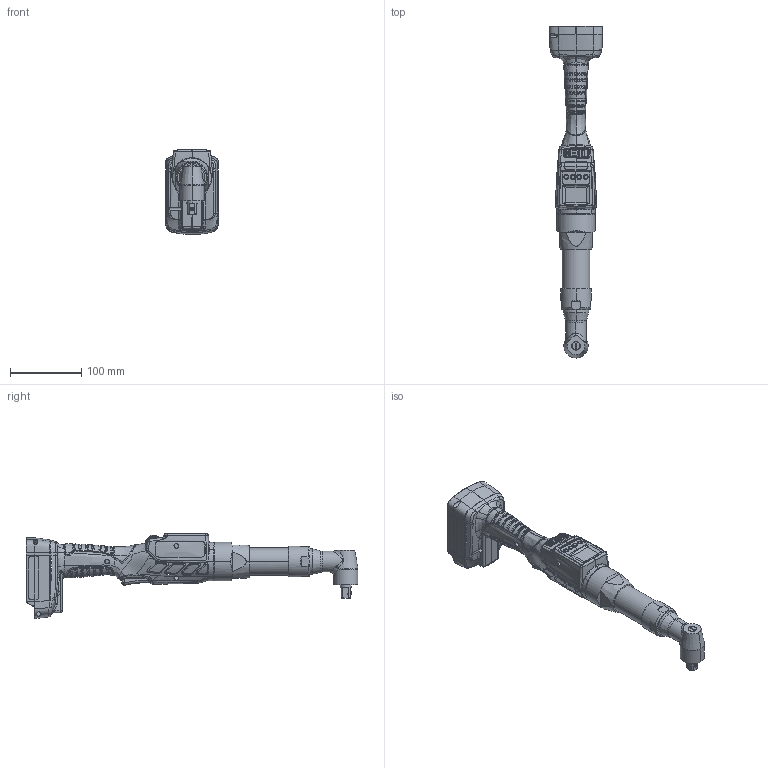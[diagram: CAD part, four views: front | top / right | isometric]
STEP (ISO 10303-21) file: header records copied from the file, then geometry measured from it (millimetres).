
FILE_DESCRIPTION (( 'STEP AP203' ), '1' );
FILE_NAME ('BMH3264-Q12 諼睡辨.STEP', '2021-03-04T00:29:22', ( '' ), ( '' ), 'SwSTEP 2.0', 'SolidWorks 2020', '' );
FILE_SCHEMA (( 'CONFIG_CONTROL_DESIGN' ));
Length unit declared in the file: millimetre
Products named in the file (1): BMH3264-Q12 諼睡辨
Bounding box: 74.18 x 465.24 x 119.33 mm (x, y, z)
Surface area: 114913.1 mm2 (no closed solid volume)
Topology: 0 solids, 32 shells, 1499 faces, 5071 edges, 3459 vertices
Faces by surface type: bspline 970, cylinder 223, plane 218, cone 39, sphere 33, torus 16
Entity records: 130967 total; most frequent: CARTESIAN_POINT 98421, ORIENTED_EDGE 8010, EDGE_CURVE 5061, VERTEX_POINT 3458, DIRECTION 3387, B_SPLINE_CURVE_WITH_KNOTS 2920, EDGE_LOOP 1566, ADVANCED_FACE 1498
